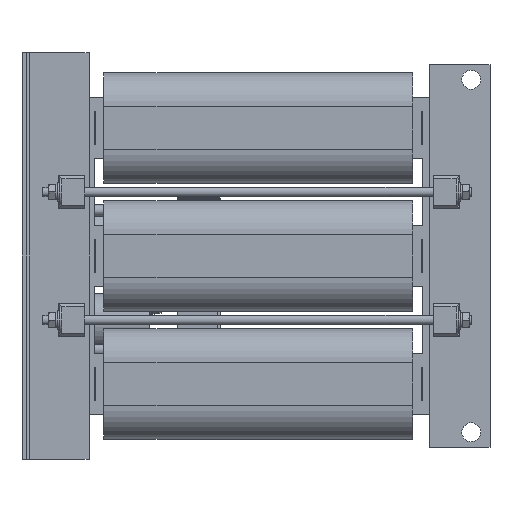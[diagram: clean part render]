
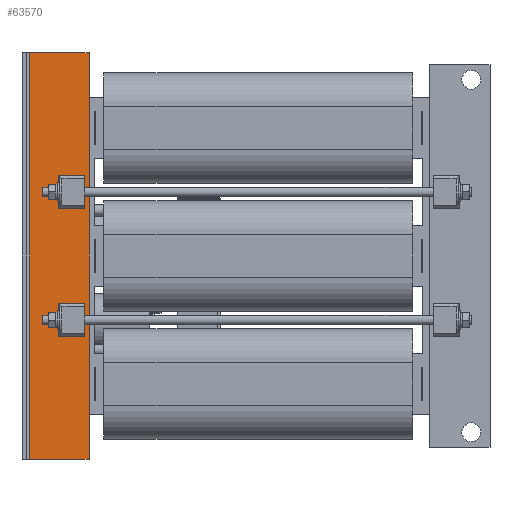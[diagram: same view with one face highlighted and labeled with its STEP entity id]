
A CAD part, left-side view. The second image highlights one B-rep face of the part: STEP entity #63570.
In plain terms, the highlighted planar face has unit normal (-1, 0, 0).
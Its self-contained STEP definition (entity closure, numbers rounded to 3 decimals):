
#2274=FACE_BOUND('',#10996,.T.);
#2275=FACE_BOUND('',#10997,.T.);
#7088=FACE_OUTER_BOUND('',#10995,.T.);
#10995=EDGE_LOOP('',(#49896,#49897,#49898,#49899));
#10996=EDGE_LOOP('',(#49900,#49901,#49902,#49903));
#10997=EDGE_LOOP('',(#49904,#49905,#49906,#49907));
#15965=LINE('',#104442,#21822);
#15966=LINE('',#104444,#21823);
#15967=LINE('',#104446,#21824);
#15968=LINE('',#104447,#21825);
#15969=LINE('',#104450,#21826);
#15970=LINE('',#104452,#21827);
#15971=LINE('',#104454,#21828);
#15972=LINE('',#104455,#21829);
#15973=LINE('',#104458,#21830);
#15974=LINE('',#104460,#21831);
#15975=LINE('',#104462,#21832);
#15976=LINE('',#104463,#21833);
#21822=VECTOR('',#79165,10.);
#21823=VECTOR('',#79166,10.);
#21824=VECTOR('',#79167,10.);
#21825=VECTOR('',#79168,10.);
#21826=VECTOR('',#79169,10.);
#21827=VECTOR('',#79170,10.);
#21828=VECTOR('',#79171,10.);
#21829=VECTOR('',#79172,10.);
#21830=VECTOR('',#79173,10.);
#21831=VECTOR('',#79174,10.);
#21832=VECTOR('',#79175,10.);
#21833=VECTOR('',#79176,10.);
#28016=VERTEX_POINT('',#104440);
#28017=VERTEX_POINT('',#104441);
#28018=VERTEX_POINT('',#104443);
#28019=VERTEX_POINT('',#104445);
#28020=VERTEX_POINT('',#104448);
#28021=VERTEX_POINT('',#104449);
#28022=VERTEX_POINT('',#104451);
#28023=VERTEX_POINT('',#104453);
#28024=VERTEX_POINT('',#104456);
#28025=VERTEX_POINT('',#104457);
#28026=VERTEX_POINT('',#104459);
#28027=VERTEX_POINT('',#104461);
#35652=EDGE_CURVE('',#28016,#28017,#15965,.T.);
#35653=EDGE_CURVE('',#28018,#28016,#15966,.T.);
#35654=EDGE_CURVE('',#28019,#28018,#15967,.T.);
#35655=EDGE_CURVE('',#28017,#28019,#15968,.T.);
#35656=EDGE_CURVE('',#28020,#28021,#15969,.T.);
#35657=EDGE_CURVE('',#28021,#28022,#15970,.T.);
#35658=EDGE_CURVE('',#28022,#28023,#15971,.T.);
#35659=EDGE_CURVE('',#28023,#28020,#15972,.T.);
#35660=EDGE_CURVE('',#28024,#28025,#15973,.T.);
#35661=EDGE_CURVE('',#28024,#28026,#15974,.T.);
#35662=EDGE_CURVE('',#28026,#28027,#15975,.T.);
#35663=EDGE_CURVE('',#28025,#28027,#15976,.T.);
#49896=ORIENTED_EDGE('',*,*,#35652,.F.);
#49897=ORIENTED_EDGE('',*,*,#35653,.F.);
#49898=ORIENTED_EDGE('',*,*,#35654,.F.);
#49899=ORIENTED_EDGE('',*,*,#35655,.F.);
#49900=ORIENTED_EDGE('',*,*,#35656,.T.);
#49901=ORIENTED_EDGE('',*,*,#35657,.T.);
#49902=ORIENTED_EDGE('',*,*,#35658,.T.);
#49903=ORIENTED_EDGE('',*,*,#35659,.T.);
#49904=ORIENTED_EDGE('',*,*,#35660,.F.);
#49905=ORIENTED_EDGE('',*,*,#35661,.T.);
#49906=ORIENTED_EDGE('',*,*,#35662,.T.);
#49907=ORIENTED_EDGE('',*,*,#35663,.F.);
#57378=PLANE('',#67676);
#63570=ADVANCED_FACE('',(#7088,#2274,#2275),#57378,.T.);
#67676=AXIS2_PLACEMENT_3D('',#104439,#79163,#79164);
#79163=DIRECTION('center_axis',(-1.,0.,0.));
#79164=DIRECTION('ref_axis',(0.,0.,-1.));
#79165=DIRECTION('',(0.,0.,1.));
#79166=DIRECTION('',(0.,1.,0.));
#79167=DIRECTION('',(0.,0.,-1.));
#79168=DIRECTION('',(0.,-1.,0.));
#79169=DIRECTION('',(0.,0.,-1.));
#79170=DIRECTION('',(0.,1.,0.));
#79171=DIRECTION('',(0.,0.,1.));
#79172=DIRECTION('',(0.,-1.,0.));
#79173=DIRECTION('',(0.,0.,1.));
#79174=DIRECTION('',(0.,1.,0.));
#79175=DIRECTION('',(0.,0.,1.));
#79176=DIRECTION('',(0.,1.,0.));
#104439=CARTESIAN_POINT('Origin',(648.37,879.044,745.805));
#104440=CARTESIAN_POINT('',(648.37,916.544,475.805));
#104441=CARTESIAN_POINT('',(648.37,916.544,1015.805));
#104442=CARTESIAN_POINT('',(648.37,916.544,880.805));
#104443=CARTESIAN_POINT('',(648.37,837.544,475.805));
#104444=CARTESIAN_POINT('',(648.37,837.544,475.805));
#104445=CARTESIAN_POINT('',(648.37,837.544,1015.805));
#104446=CARTESIAN_POINT('',(648.37,837.544,1015.805));
#104447=CARTESIAN_POINT('',(648.37,920.544,1015.805));
#104448=CARTESIAN_POINT('',(648.37,843.544,683.305));
#104449=CARTESIAN_POINT('',(648.37,843.544,638.305));
#104450=CARTESIAN_POINT('',(648.37,843.544,643.305));
#104451=CARTESIAN_POINT('',(648.37,878.544,638.305));
#104452=CARTESIAN_POINT('',(648.37,843.544,638.305));
#104453=CARTESIAN_POINT('',(648.37,878.544,683.305));
#104454=CARTESIAN_POINT('',(648.37,878.544,643.305));
#104455=CARTESIAN_POINT('',(648.37,873.544,683.305));
#104456=CARTESIAN_POINT('',(648.37,843.544,808.305));
#104457=CARTESIAN_POINT('',(648.37,843.544,853.305));
#104458=CARTESIAN_POINT('',(648.37,843.544,848.305));
#104459=CARTESIAN_POINT('',(648.37,878.544,808.305));
#104460=CARTESIAN_POINT('',(648.37,873.544,808.305));
#104461=CARTESIAN_POINT('',(648.37,878.544,853.305));
#104462=CARTESIAN_POINT('',(648.37,878.544,848.305));
#104463=CARTESIAN_POINT('',(648.37,843.544,853.305));
